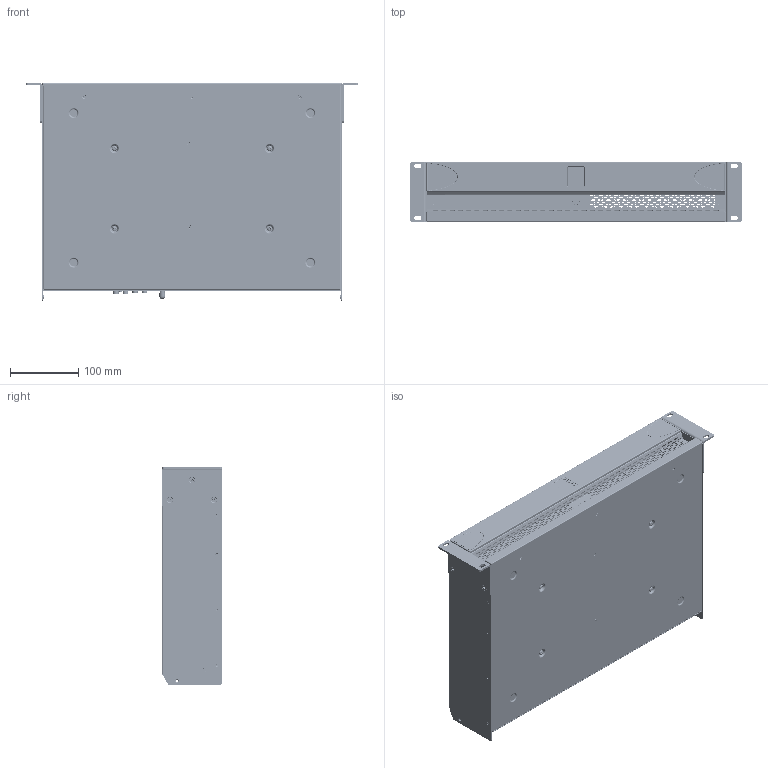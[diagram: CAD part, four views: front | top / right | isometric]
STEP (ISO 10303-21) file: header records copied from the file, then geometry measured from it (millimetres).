
FILE_DESCRIPTION (( 'STEP AP214' ), '1' );
FILE_NAME ('Blaze PowerZone Connect 3004 Amplifier.STEP', '2025-01-07T12:34:45', ( '' ), ( '' ), 'SwSTEP 2.0', 'SolidWorks 2024', '' );
FILE_SCHEMA (( 'AUTOMOTIVE_DESIGN' ));
Length unit declared in the file: millimetre
Products named in the file (2): Blaze PowerZone Connect 3004 Amplifier; for export_defeature^Bob_Marley_Powerzone3004_Assy_SV
Assembly tree (1 placements, depth 2):
  Blaze PowerZone Connect 3004 Amplifier
    for export_defeature^Bob_Marley_Powerzone3004_Assy_SV
Bounding box: 488 x 88.15 x 320 mm (x, y, z)
Volume: 592081.8 mm3; surface area: 945515.5 mm2
Topology: 127 solids, 127 shells, 10858 faces, 28256 edges, 18009 vertices
Faces by surface type: plane 5898, cylinder 3007, cone 1249, torus 381, bspline 252, sphere 71
Entity records: 348099 total; most frequent: CARTESIAN_POINT 74362, DIRECTION 56305, ORIENTED_EDGE 56252, EDGE_CURVE 28126, LINE 19107, VECTOR 19107, AXIS2_PLACEMENT_3D 18599, VERTEX_POINT 18007
